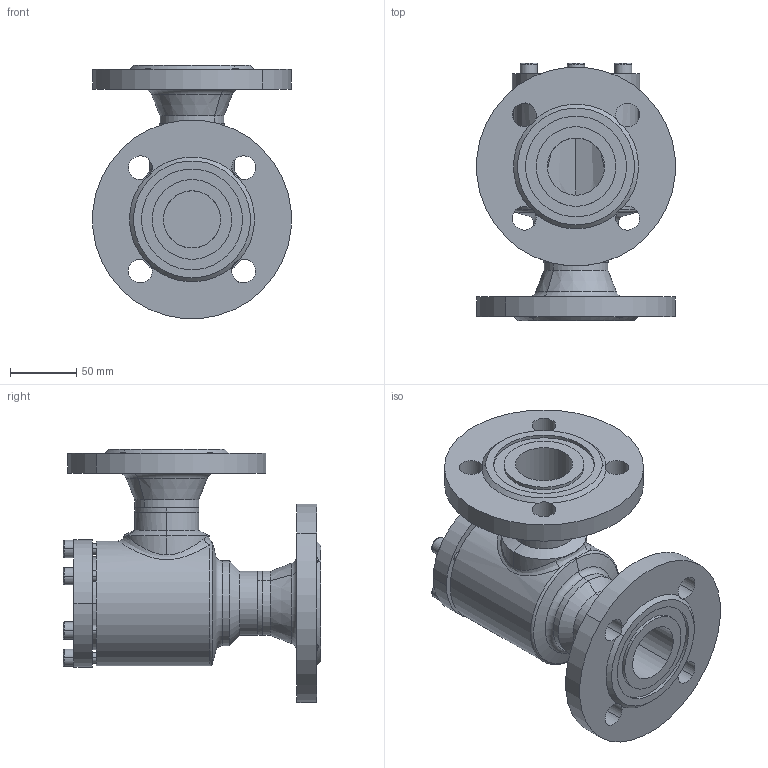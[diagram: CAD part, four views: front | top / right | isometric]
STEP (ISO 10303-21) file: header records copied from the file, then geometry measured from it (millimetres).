
FILE_DESCRIPTION (( 'STEP AP214' ), '1' );
FILE_NAME ('SS52420D14-DN040_DIN-FL-N_PS40.STEP', '2006-05-02T05:54:59', ( 'Herr Grams' ), ( 'AWP GmbH' ), 'SwSTEP 2.0', 'SolidWorks 2002296', '' );
FILE_SCHEMA (( 'AUTOMOTIVE_DESIGN' ));
Length unit declared in the file: millimetre
Products named in the file (9): SS52420D14-DN040_DIN-FL-N_PS40; Gehäuse-kpl16420-DN040_DIN_PS40_Standard; Gehäuse16400-DN040_Standard; bead16420-Geh-040-2_Standard; bead16420-Geh-040-1_Standard; Flansch-DIN2635-Nut_PS40_DIN-Flansch-DN040_PS40-Nut; SS52300E15_Deck+Schr-DN40-50_Standard; Deckel52300E15-DN40-50_Standard; Zylinderschraube-DIN912_M 8x 25
Assembly tree (14 placements, depth 3):
  SS52420D14-DN040_DIN-FL-N_PS40
    Gehäuse-kpl16420-DN040_DIN_PS40_Standard
      bead16420-Geh-040-1_Standard
      bead16420-Geh-040-2_Standard
      Gehäuse16400-DN040_Standard
      Flansch-DIN2635-Nut_PS40_DIN-Flansch-DN040_PS40-Nut  x2
    SS52300E15_Deck+Schr-DN40-50_Standard
      Deckel52300E15-DN40-50_Standard
      Zylinderschraube-DIN912_M 8x 25  x6
Bounding box: 149.43 x 194 x 190.71 mm (x, y, z)
Volume: 983894.3 mm3; surface area: 208414.3 mm2
Topology: 12 solids, 12 shells, 255 faces, 587 edges, 367 vertices
Faces by surface type: cylinder 95, plane 84, cone 45, torus 20, bspline 11
Entity records: 16158 total; most frequent: CARTESIAN_POINT 12509, DIRECTION 695, ORIENTED_EDGE 630, EDGE_CURVE 315, AXIS2_PLACEMENT_3D 296, VERTEX_POINT 195, EDGE_LOOP 164, CIRCLE 155
